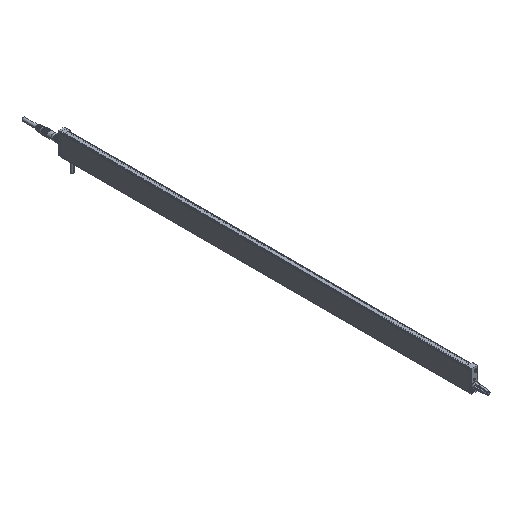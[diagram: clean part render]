
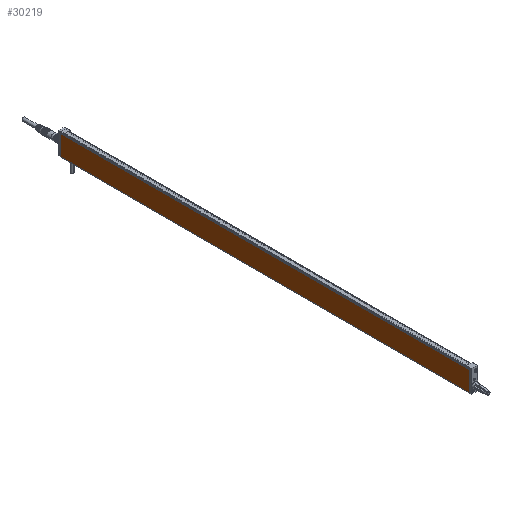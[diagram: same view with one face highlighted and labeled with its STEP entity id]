
A CAD part, isometric view. The second image highlights one B-rep face of the part: STEP entity #30219.
In plain terms, the highlighted planar face has unit normal (-1, 0, 0).
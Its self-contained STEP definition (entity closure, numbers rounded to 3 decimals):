
#1233 = DIRECTION ( 'NONE',  ( 0., -1., 0. ) ) ;
#3017 = VECTOR ( 'NONE', #5125, 1000. ) ;
#3522 = ORIENTED_EDGE ( 'NONE', *, *, #17886, .T. ) ;
#4614 = CARTESIAN_POINT ( 'NONE',  ( -9., 0., 0.5 ) ) ;
#5125 = DIRECTION ( 'NONE',  ( 0., 0., -1. ) ) ;
#5326 = CARTESIAN_POINT ( 'NONE',  ( -9., 0., 28.5 ) ) ;
#6775 = AXIS2_PLACEMENT_3D ( 'NONE', #14316, #16917, #1233 ) ;
#6951 = CARTESIAN_POINT ( 'NONE',  ( -9., 575., 28.5 ) ) ;
#7587 = LINE ( 'NONE', #15136, #23516 ) ;
#11928 = EDGE_LOOP ( 'NONE', ( #12460, #28873, #17061, #3522 ) ) ;
#12460 = ORIENTED_EDGE ( 'NONE', *, *, #17766, .F. ) ;
#13372 = CARTESIAN_POINT ( 'NONE',  ( -9., 575., 0.5 ) ) ;
#13547 = CARTESIAN_POINT ( 'NONE',  ( -9., 0., 28.5 ) ) ;
#14316 = CARTESIAN_POINT ( 'NONE',  ( -9., 575., 28.5 ) ) ;
#15136 = CARTESIAN_POINT ( 'NONE',  ( -9., 575., 28.5 ) ) ;
#15455 = CARTESIAN_POINT ( 'NONE',  ( -9., 575., 28.5 ) ) ;
#15711 = VERTEX_POINT ( 'NONE', #6951 ) ;
#16917 = DIRECTION ( 'NONE',  ( -1., 0., 0. ) ) ;
#17061 = ORIENTED_EDGE ( 'NONE', *, *, #32988, .T. ) ;
#17766 = EDGE_CURVE ( 'NONE', #30794, #29157, #24770, .T. ) ;
#17886 = EDGE_CURVE ( 'NONE', #29690, #29157, #30877, .T. ) ;
#18269 = VECTOR ( 'NONE', #20901, 1000. ) ;
#20462 = FACE_OUTER_BOUND ( 'NONE', #11928, .T. ) ;
#20901 = DIRECTION ( 'NONE',  ( 0., 0., -1. ) ) ;
#22085 = CARTESIAN_POINT ( 'NONE',  ( -9., 575., 0.5 ) ) ;
#23109 = LINE ( 'NONE', #15455, #3017 ) ;
#23516 = VECTOR ( 'NONE', #33355, 1000. ) ;
#23860 = DIRECTION ( 'NONE',  ( 0., -1., 0. ) ) ;
#24770 = LINE ( 'NONE', #5326, #18269 ) ;
#27281 = PLANE ( 'NONE',  #6775 ) ;
#28088 = EDGE_CURVE ( 'NONE', #15711, #30794, #7587, .T. ) ;
#28818 = VECTOR ( 'NONE', #23860, 1000. ) ;
#28873 = ORIENTED_EDGE ( 'NONE', *, *, #28088, .F. ) ;
#29157 = VERTEX_POINT ( 'NONE', #4614 ) ;
#29690 = VERTEX_POINT ( 'NONE', #22085 ) ;
#30219 = ADVANCED_FACE ( 'NONE', ( #20462 ), #27281, .T. ) ;
#30794 = VERTEX_POINT ( 'NONE', #13547 ) ;
#30877 = LINE ( 'NONE', #13372, #28818 ) ;
#32988 = EDGE_CURVE ( 'NONE', #15711, #29690, #23109, .T. ) ;
#33355 = DIRECTION ( 'NONE',  ( 0., -1., 0. ) ) ;
